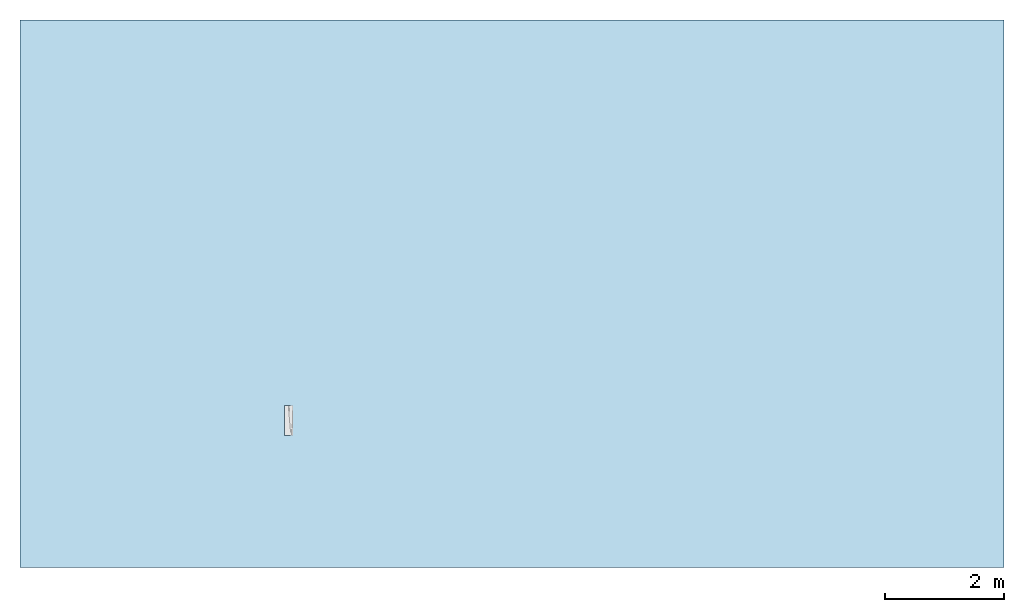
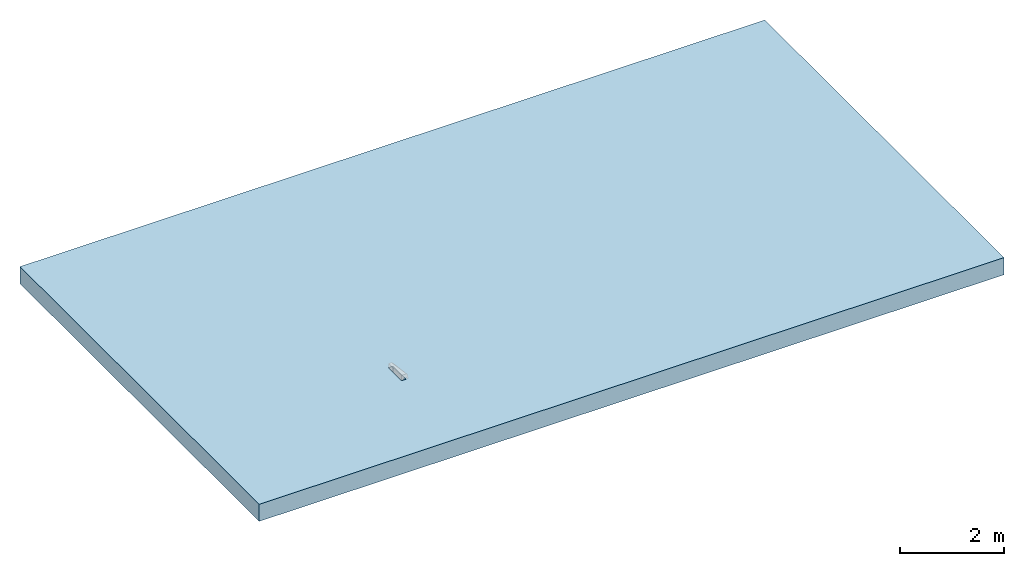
# One storey, part 1 of 2: 1 slab, 1 opening.
"""IFC2X3 building model written with IfcOpenShell, lengths in millimetres."""

from ifc_helpers import new_model, entity, si_unit, converted_unit, direction, frame, frame_2d, origin, place, context, subcontext, project, spatial, polyline, rectangle, outline, extrude, material, layer, layer_set, layer_usage, element, save


model = new_model("IFC2X3")

# Units and contexts
model_context = context("Model", 3, precision=1e-06, world=origin(), true_north=direction((2.0, 6.12303176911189e-17, 1.0)))
context_of_model = context(None, 3, precision=1e-06, world=origin(), true_north=direction((2.0, 6.12303176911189e-17, 1.0)))
body_context = subcontext(model_context, "Body", "Model", "MODEL_VIEW")
ifc_project = project(units=[si_unit("LENGTHUNIT", "METRE", prefix="MILLI"), si_unit("AREAUNIT", "SQUARE_METRE", prefix="MILLI"), si_unit("VOLUMEUNIT", "CUBIC_METRE", prefix="MILLI"), converted_unit("PLANEANGLEUNIT", "DEGREE", entity("IfcRatioMeasure", 0.0174532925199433), si_unit("PLANEANGLEUNIT", "RADIAN"), dimensions=[0, 0, 0, 0, 0, 0, 0]), si_unit("TIMEUNIT", "SECOND")], contexts=[model_context, context_of_model])

# Site, building, storey
site_placement = place(None, origin())
site = spatial("IfcSite", under=ifc_project, at=site_placement, Name="Default", CompositionType="ELEMENT")
building_placement = place(site_placement, origin())
building = spatial("IfcBuilding", under=site, at=building_placement, CompositionType="ELEMENT")
storey_placement = place(building_placement, origin())
storey = spatial("IfcBuildingStorey", under=building, at=storey_placement, Name="Level 1", CompositionType="ELEMENT", Elevation=0.0)

# Slab, opening
ifc_material = material(Name="Plant")
ifc_layer = layer(ifc_material, 400.0)
ifc_layer_set = layer_set([ifc_layer], Name="Floor:Generic Floor - 400mm")
ifc_layer_usage = layer_usage(ifc_layer_set, "AXIS3", "POSITIVE", 0.0)
slab_placement = place(storey_placement, frame((-17967.0691536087, -3738.31688706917, -400.0)))
slab = element("IfcSlab", 1, at=slab_placement, inside=storey, material=ifc_layer_usage, Name="Floor:Generic Floor - 400mm", ObjectType="Floor:Generic Floor - 400mm", PredefinedType="FLOOR", context=body_context, shape_type="SweptSolid", body=[
    extrude(rectangle(XDim=9180.0, YDim=16500.0, at=frame_2d((0.0, 0.0), x_axis=(0.0, -1.0))), frame((8250.0, 4590.0, 400.0), z_axis=(0.0, 0.0, -1.0), x_axis=(-1.0, 0.0, 0.0)), (0.0, 0.0, 1.0), 400.0),
])
opening_placement = place(slab_placement, origin())
element("IfcOpeningElement", 2, at=opening_placement, cuts=slab, ObjectType="Recess", context=body_context, shape_type="SweptSolid", body=[
    extrude(outline(polyline([(-250.08773539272, -166.249999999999), (249.91226460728, -166.249999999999), (249.91226460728, 13.7500000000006), (140.263206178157, 13.7500000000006), (140.263206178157, 138.749999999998), (-140.087735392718, 138.749999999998), (-140.087735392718, 13.7500000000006), (-250.08773539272, 13.7500000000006), (-250.08773539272, -166.249999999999)])), frame((4431.71857473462, 2466.34556071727, 386.249999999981), z_axis=(1.0, 0.0, 0.0), x_axis=(0.0, 1.0, 0.0)), (0.0, 0.0, 1.0), 99.9999999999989),
])

save(model, "model.ifc")
